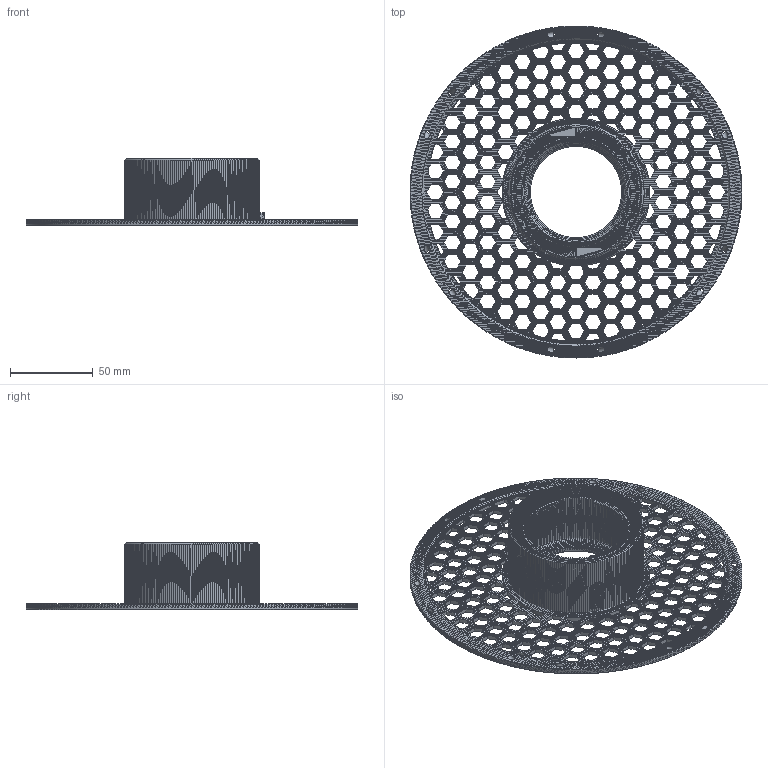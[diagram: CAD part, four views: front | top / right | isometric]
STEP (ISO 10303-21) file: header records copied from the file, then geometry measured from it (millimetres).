
FILE_DESCRIPTION(/* description */ (''),/* implementation_level */ '2;1');
FILE_NAME(/* name */ 'bambulab_spool_wide_mod v11.step',/* time_stamp */ '2023-02-04T12:01:12+01:00',/* author */ (''),/* organization */ (''),/* preprocessor_version */ 'ST-DEVELOPER v19.2',/* originating_system */ 'Autodesk Translation Framework v11.17.0.187',/* authorisation */ '');
FILE_SCHEMA (('AUTOMOTIVE_DESIGN { 1 0 10303 214 3 1 1 }'));
Products named in the file (1): bambulab_spool_wide_mod
Bounding box: 200 x 200 x 40.7 mm (x, y, z)
Volume: 86301.4 mm3; surface area: 86514.5 mm2
Topology: 1 solids, 1 shells, 23242 faces, 47252 edges, 23622 vertices
Faces by surface type: plane 23163, cylinder 79
Full cylindrical faces by diameter (mm): 2.2 x2, 3.5 x12
Entity records: 566555 total; most frequent: DIRECTION 95856, ORIENTED_EDGE 94616, CARTESIAN_POINT 94229, EDGE_CURVE 47308, LINE 45246, VECTOR 45246, AXIS2_PLACEMENT_3D 25305, VERTEX_POINT 23678
